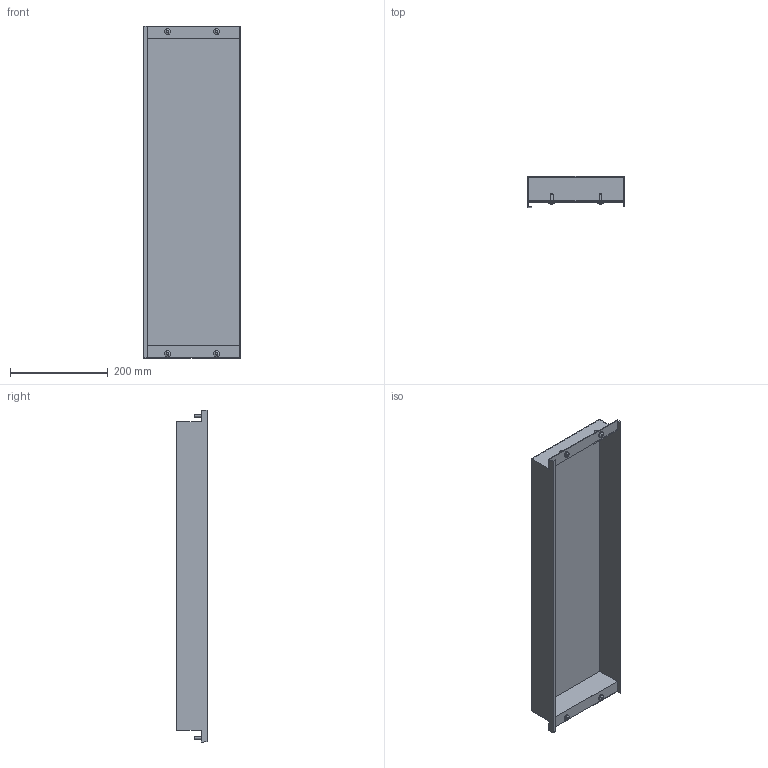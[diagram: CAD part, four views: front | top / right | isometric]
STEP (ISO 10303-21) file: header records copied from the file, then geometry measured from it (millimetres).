
FILE_DESCRIPTION (( 'STEP AP214' ), '1' );
FILE_NAME ('FO-00-PVSU-020-080 Ïëàñòðîí âíóòðåííèé óãëóáëåííûé 200õ800õ50.STEP', '2025-09-30T08:23:03', ( '' ), ( '' ), 'SwSTEP 2.0', 'SolidWorks 2023', '' );
FILE_SCHEMA (( 'AUTOMOTIVE_DESIGN' ));
Length unit declared in the file: millimetre
Products named in the file (3): FO-00-PVSU-020-080 Пластрон внутренний углубленный 200х800х50; Винты М6х16 20-80
Assembly tree (3 placements, depth 2):
  FO-00-PVSU-020-080 Пластрон внутренний углубленный 200х800х50
    FO-00-PVSU-020-080 Пластрон внутренний углубленный 200х800х50
    Винты М6х16 20-80  x2
Bounding box: 198 x 62.5 x 679 mm (x, y, z)
Volume: 331909.3 mm3; surface area: 474958.6 mm2
Topology: 5 solids, 5 shells, 154 faces, 404 edges, 264 vertices
Faces by surface type: cylinder 88, plane 46, cone 12, bspline 8
Entity records: 3365 total; most frequent: CARTESIAN_POINT 748, ORIENTED_EDGE 536, DIRECTION 520, EDGE_CURVE 268, AXIS2_PLACEMENT_3D 184, VERTEX_POINT 176, VECTOR 152, LINE 152
